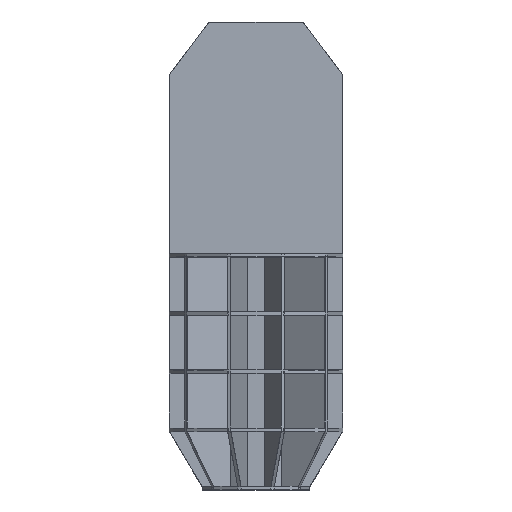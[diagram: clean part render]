
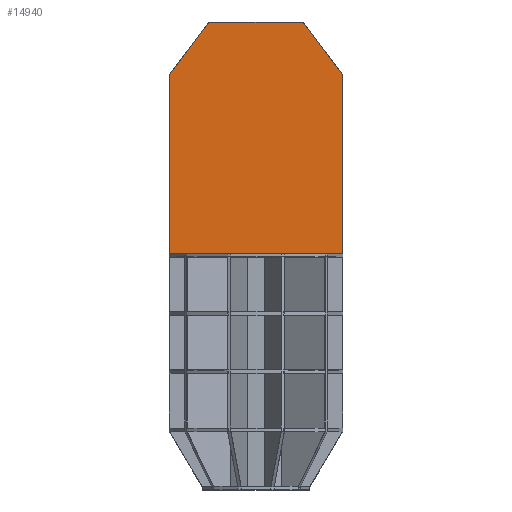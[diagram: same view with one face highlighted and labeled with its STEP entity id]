
A CAD part, top view. The second image highlights one B-rep face of the part: STEP entity #14940.
In plain terms, the highlighted planar face has unit normal (0, 0, 1).
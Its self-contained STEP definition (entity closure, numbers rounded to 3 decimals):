
#1362 = CARTESIAN_POINT ( 'NONE',  ( 356.5, 975.707, 16. ) ) ;
#1365 = CARTESIAN_POINT ( 'NONE',  ( -177.896, 797.104, 16. ) ) ;
#1431 = ORIENTED_EDGE ( 'NONE', *, *, #10100, .T. ) ;
#1899 = VERTEX_POINT ( 'NONE', #16615 ) ;
#2338 = CARTESIAN_POINT ( 'NONE',  ( 356.793, 975., 16. ) ) ;
#2480 = ORIENTED_EDGE ( 'NONE', *, *, #15761, .T. ) ;
#2748 = CARTESIAN_POINT ( 'NONE',  ( -356.793, 1714.763, 16. ) ) ;
#3593 = VECTOR ( 'NONE', #15001, 1000. ) ;
#3827 = VECTOR ( 'NONE', #13147, 1000. ) ;
#3870 = EDGE_CURVE ( 'NONE', #11906, #4899, #9977, .T. ) ;
#3910 = LINE ( 'NONE', #5248, #3593 ) ;
#3913 = CARTESIAN_POINT ( 'NONE',  ( -356.793, 975., 16. ) ) ;
#4395 = DIRECTION ( 'NONE',  ( -0.603, 0.798, 0. ) ) ;
#4401 = DIRECTION ( 'NONE',  ( 1., 0., 0. ) ) ;
#4494 = LINE ( 'NONE', #18496, #13185 ) ;
#4599 = VERTEX_POINT ( 'NONE', #1362 ) ;
#4676 = ORIENTED_EDGE ( 'NONE', *, *, #13051, .T. ) ;
#4899 = VERTEX_POINT ( 'NONE', #13463 ) ;
#5113 = LINE ( 'NONE', #19410, #8011 ) ;
#5196 = CARTESIAN_POINT ( 'NONE',  ( -356.5, 975.707, 16. ) ) ;
#5248 = CARTESIAN_POINT ( 'NONE',  ( 177.896, 797.104, 16. ) ) ;
#5315 = DIRECTION ( 'NONE',  ( -1., 0., 0. ) ) ;
#5389 = EDGE_CURVE ( 'NONE', #10138, #8396, #17142, .T. ) ;
#5819 = EDGE_CURVE ( 'NONE', #7650, #11906, #15981, .T. ) ;
#6209 = VECTOR ( 'NONE', #16178, 1000. ) ;
#6383 = EDGE_CURVE ( 'NONE', #4599, #1899, #3910, .T. ) ;
#6464 = EDGE_LOOP ( 'NONE', ( #19962, #13062, #15105, #1431, #16521, #8637, #2480, #4676 ) ) ;
#7650 = VERTEX_POINT ( 'NONE', #12088 ) ;
#7840 = LINE ( 'NONE', #1365, #7969 ) ;
#7969 = VECTOR ( 'NONE', #19067, 1000. ) ;
#8011 = VECTOR ( 'NONE', #5315, 1000. ) ;
#8396 = VERTEX_POINT ( 'NONE', #13576 ) ;
#8637 = ORIENTED_EDGE ( 'NONE', *, *, #3870, .T. ) ;
#9957 = DIRECTION ( 'NONE',  ( 0., 1., 0. ) ) ;
#9977 = LINE ( 'NONE', #3913, #3827 ) ;
#10100 = EDGE_CURVE ( 'NONE', #8396, #7650, #5113, .T. ) ;
#10138 = VERTEX_POINT ( 'NONE', #17467 ) ;
#10582 = DIRECTION ( 'NONE',  ( -1., 0., 0. ) ) ;
#10778 = FACE_OUTER_BOUND ( 'NONE', #6464, .T. ) ;
#10857 = CARTESIAN_POINT ( 'NONE',  ( 582.92, 1415.579, 16. ) ) ;
#11139 = VECTOR ( 'NONE', #4395, 1000. ) ;
#11708 = VECTOR ( 'NONE', #9957, 1000. ) ;
#11906 = VERTEX_POINT ( 'NONE', #2748 ) ;
#12088 = CARTESIAN_POINT ( 'NONE',  ( -194.648, 1929.293, 16. ) ) ;
#13051 = EDGE_CURVE ( 'NONE', #15539, #4599, #4494, .T. ) ;
#13062 = ORIENTED_EDGE ( 'NONE', *, *, #19367, .T. ) ;
#13147 = DIRECTION ( 'NONE',  ( 0., -1., 0. ) ) ;
#13185 = VECTOR ( 'NONE', #4401, 1000. ) ;
#13322 = LINE ( 'NONE', #2338, #11708 ) ;
#13463 = CARTESIAN_POINT ( 'NONE',  ( -356.793, 976., 16. ) ) ;
#13576 = CARTESIAN_POINT ( 'NONE',  ( 194.648, 1929.293, 16. ) ) ;
#14940 = ADVANCED_FACE ( 'NONE', ( #10778 ), #16863, .F. ) ;
#15001 = DIRECTION ( 'NONE',  ( 0.707, 0.707, 0. ) ) ;
#15105 = ORIENTED_EDGE ( 'NONE', *, *, #5389, .T. ) ;
#15302 = CARTESIAN_POINT ( 'NONE',  ( 0., 975., 16. ) ) ;
#15539 = VERTEX_POINT ( 'NONE', #5196 ) ;
#15761 = EDGE_CURVE ( 'NONE', #4899, #15539, #7840, .T. ) ;
#15981 = LINE ( 'NONE', #17722, #6209 ) ;
#16178 = DIRECTION ( 'NONE',  ( -0.603, -0.798, 0. ) ) ;
#16521 = ORIENTED_EDGE ( 'NONE', *, *, #5819, .T. ) ;
#16615 = CARTESIAN_POINT ( 'NONE',  ( 356.793, 976., 16. ) ) ;
#16863 = PLANE ( 'NONE',  #18444 ) ;
#17142 = LINE ( 'NONE', #10857, #11139 ) ;
#17467 = CARTESIAN_POINT ( 'NONE',  ( 356.793, 1714.763, 16. ) ) ;
#17722 = CARTESIAN_POINT ( 'NONE',  ( -582.92, 1415.579, 16. ) ) ;
#18397 = DIRECTION ( 'NONE',  ( 0., 0., -1. ) ) ;
#18444 = AXIS2_PLACEMENT_3D ( 'NONE', #15302, #18397, #10582 ) ;
#18496 = CARTESIAN_POINT ( 'NONE',  ( 0., 975.707, 16. ) ) ;
#19067 = DIRECTION ( 'NONE',  ( 0.707, -0.707, 0. ) ) ;
#19367 = EDGE_CURVE ( 'NONE', #1899, #10138, #13322, .T. ) ;
#19410 = CARTESIAN_POINT ( 'NONE',  ( 0., 1929.293, 16. ) ) ;
#19962 = ORIENTED_EDGE ( 'NONE', *, *, #6383, .T. ) ;
